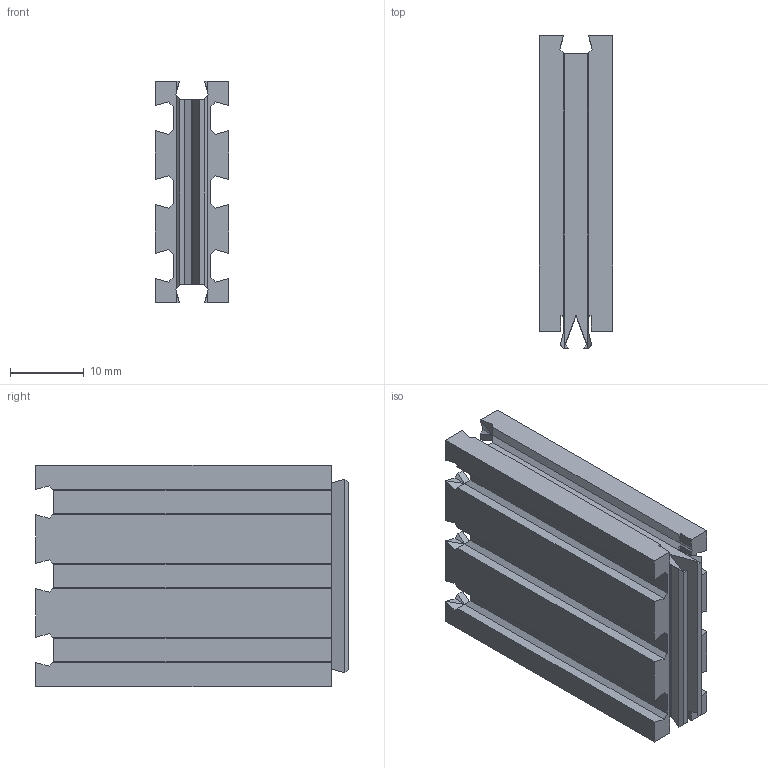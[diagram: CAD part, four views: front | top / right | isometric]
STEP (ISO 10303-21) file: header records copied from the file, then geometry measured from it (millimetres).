
FILE_DESCRIPTION(/* description */ (''),/* implementation_level */ '2;1');
FILE_NAME(/* name */ 'C:/Users/priba/Downloads/Brick1x3x4.step',/* time_stamp */ '2020-09-13T09:09:08+02:00',/* author */ (''),/* organization */ (''),/* preprocessor_version */ 'ST-DEVELOPER v18.1',/* originating_system */ 'Autodesk Translation Framework v9.3.0.1241',/* authorisation */ '');
FILE_SCHEMA (('AUTOMOTIVE_DESIGN { 1 0 10303 214 3 1 1 }'));
Length unit declared in the file: millimetre
Products named in the file (1): Brick1x3x4
Bounding box: 10 x 42.31 x 30 mm (x, y, z)
Volume: 5206.4 mm3; surface area: 8739.5 mm2
Topology: 1 solids, 5 shells, 354 faces, 852 edges, 512 vertices
Faces by surface type: plane 354
Entity records: 9882 total; most frequent: CARTESIAN_POINT 1719, ORIENTED_EDGE 1704, DIRECTION 1562, LINE 852, VECTOR 852, EDGE_CURVE 852, VERTEX_POINT 512, EDGE_LOOP 366
